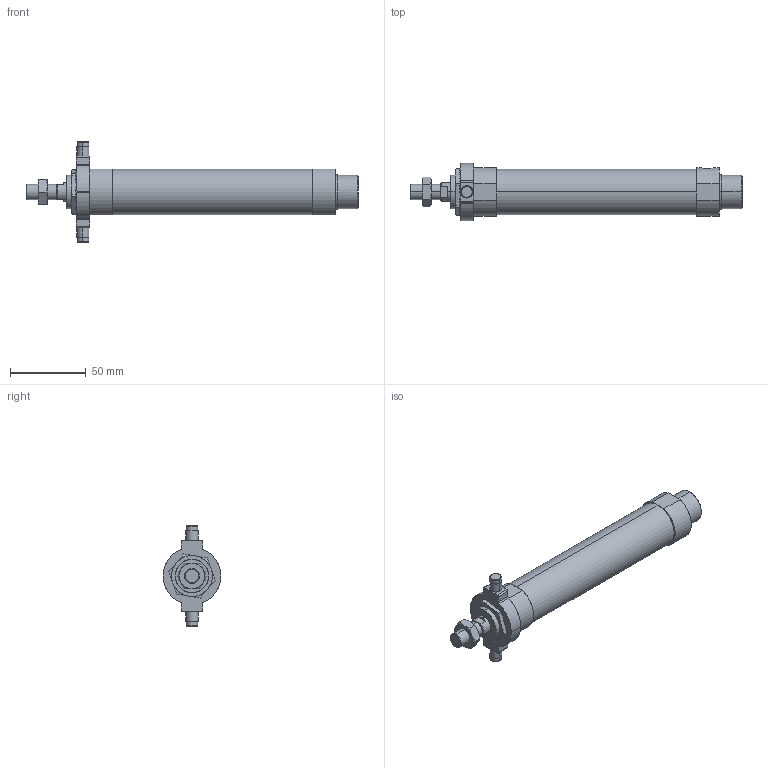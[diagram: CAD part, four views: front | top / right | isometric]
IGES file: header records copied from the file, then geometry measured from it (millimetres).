
Start section: SolidWorks IGES file using analytic representation for surfaces
Global section: file name: C:\Users\Toshiba\Desktop\J#1-25-50-T.IGS; native system: SolidWorks 2014; preprocessor: SolidWorks 2014; author: Toshiba; date: 160308.145023; units: millimetre
Bounding box: 219 x 38 x 66 mm (x, y, z)
Surface area: 26762.7 mm2 (no closed solid volume)
Topology: 0 solids, 0 shells, 132 faces, 2166 edges, 2164 vertices
Faces by surface type: bspline 71, revolution 61
